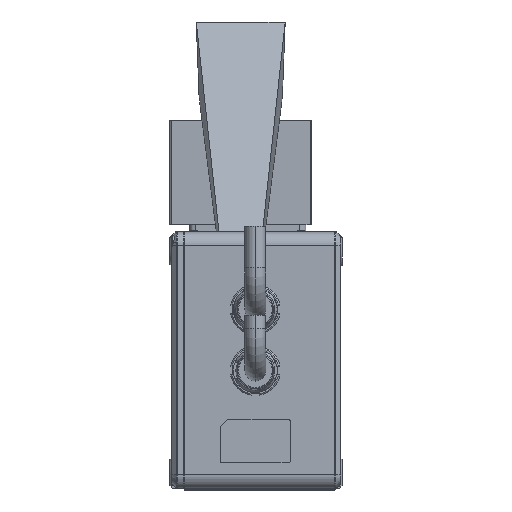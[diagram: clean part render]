
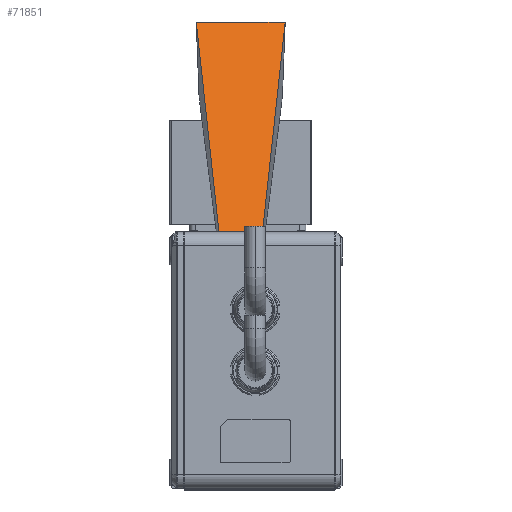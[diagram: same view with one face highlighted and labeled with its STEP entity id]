
A CAD part, left-side view. The second image highlights one B-rep face of the part: STEP entity #71851.
In plain terms, the highlighted planar face has unit normal (0.863, 0, -0.505).
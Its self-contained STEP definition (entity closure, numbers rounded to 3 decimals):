
#71772=DIRECTION('',(0.,-1.,0.));
#71773=VECTOR('',#71772,14.524);
#71774=CARTESIAN_POINT('',(-7.512,-8.738,
36.552));
#71775=LINE('',#71774,#71773);
#71776=DIRECTION('',(0.503,-0.093,0.859));
#71777=VECTOR('',#71776,94.197);
#71778=CARTESIAN_POINT('',(-7.512,-23.262,
36.552));
#71779=LINE('',#71778,#71777);
#71780=DIRECTION('',(0.,1.,0.));
#71781=VECTOR('',#71780,32.);
#71782=CARTESIAN_POINT('',(39.86,-32.,117.5));
#71783=LINE('',#71782,#71781);
#71788=DIRECTION('',(0.503,0.093,0.859));
#71789=VECTOR('',#71788,94.197);
#71790=CARTESIAN_POINT('',(-7.512,-8.738,
36.552));
#71791=LINE('',#71790,#71789);
#71820=CARTESIAN_POINT('',(-7.512,-8.738,
36.552));
#71821=CARTESIAN_POINT('',(39.86,0.,117.5));
#71822=VERTEX_POINT('',#71820);
#71823=VERTEX_POINT('',#71821);
#71824=CARTESIAN_POINT('',(-7.512,-23.262,
36.552));
#71825=CARTESIAN_POINT('',(39.86,-32.,117.5));
#71826=VERTEX_POINT('',#71824);
#71827=VERTEX_POINT('',#71825);
#71836=CARTESIAN_POINT('',(16.174,-16.,77.026));
#71837=DIRECTION('',(0.863,0.,-0.505));
#71838=DIRECTION('',(0.,-1.,0.));
#71839=AXIS2_PLACEMENT_3D('',#71836,#71837,#71838);
#71840=PLANE('',#71839);
#71842=ORIENTED_EDGE('',*,*,#71841,.F.);
#71844=ORIENTED_EDGE('',*,*,#71843,.T.);
#71846=ORIENTED_EDGE('',*,*,#71845,.T.);
#71848=ORIENTED_EDGE('',*,*,#71847,.T.);
#71849=EDGE_LOOP('',(#71842,#71844,#71846,#71848));
#71850=FACE_OUTER_BOUND('',#71849,.F.);
#71851=ADVANCED_FACE('',(#71850),#71840,.T.);
#71841=EDGE_CURVE('',#71822,#71823,#71791,.T.);
#71843=EDGE_CURVE('',#71822,#71826,#71775,.T.);
#71845=EDGE_CURVE('',#71826,#71827,#71779,.T.);
#71847=EDGE_CURVE('',#71827,#71823,#71783,.T.);
